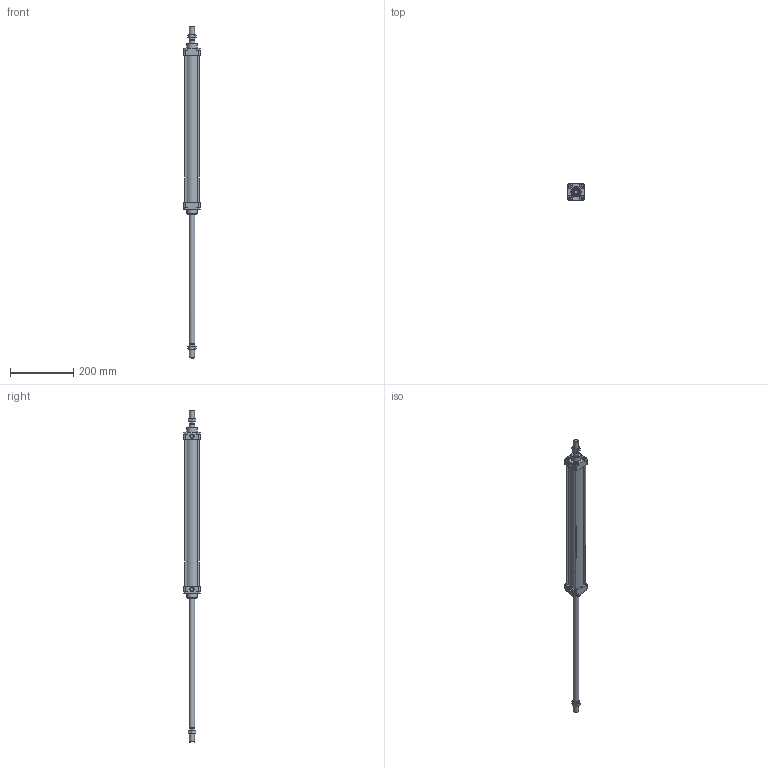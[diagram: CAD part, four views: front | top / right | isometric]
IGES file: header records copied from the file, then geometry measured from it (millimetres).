
Global section: file name: 1303_040_0400_02A; native system: Autodesk Inventor 2014; preprocessor: unknown; author: A. Manieri; date: 20161123.144304; units: millimetre
Bounding box: 52 x 52 x 1050 mm (x, y, z)
Volume: 654118.8 mm3; surface area: 260956.5 mm2
Topology: 10 solids, 10 shells, 189 faces, 471 edges, 314 vertices
Faces by surface type: bspline 189
